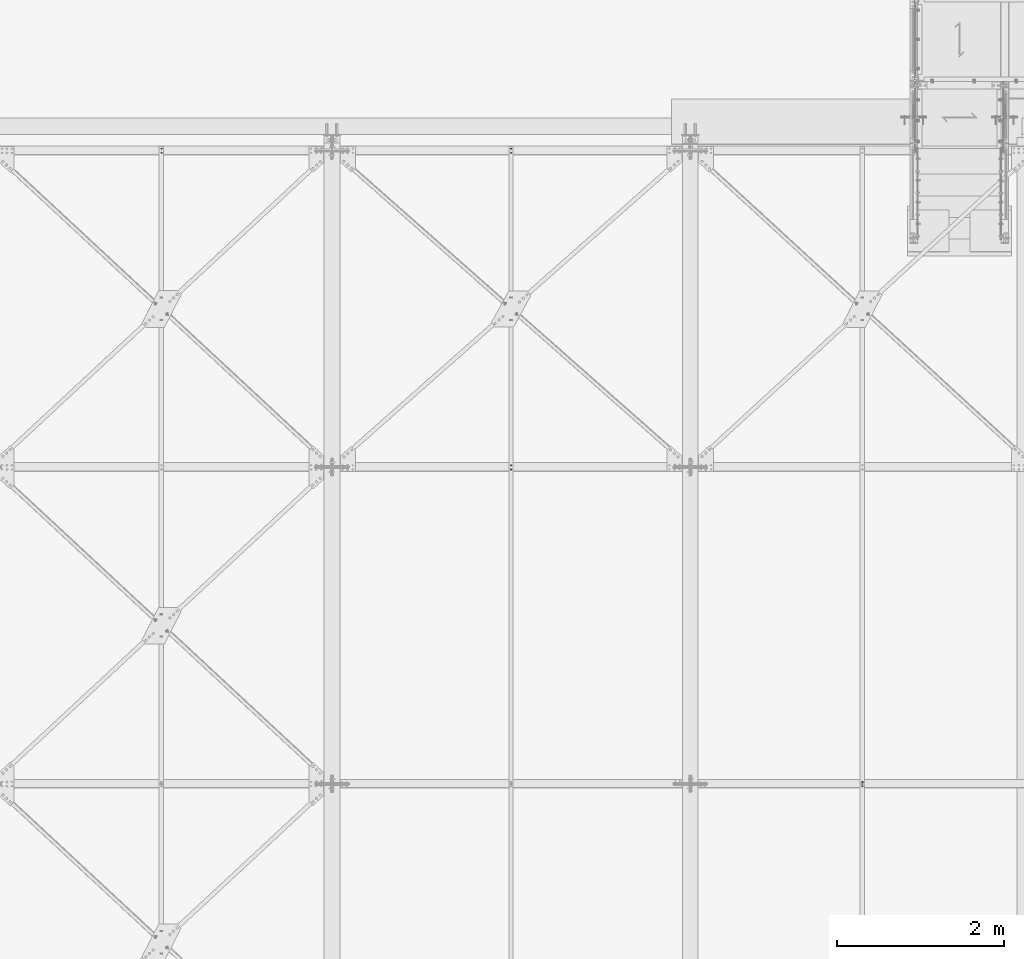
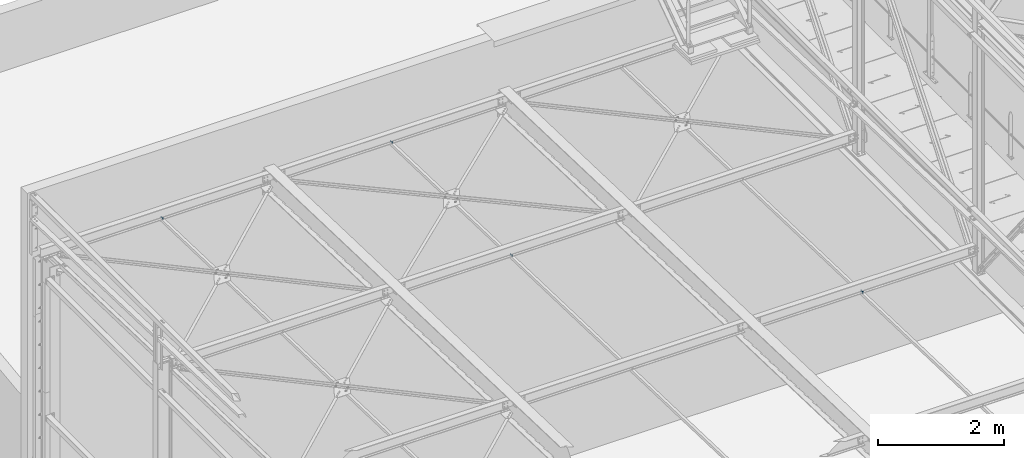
# One storey, part 243 of 362: 5 mechanical fasteners.
"""IFC2X3 building model written with IfcOpenShell, lengths in millimetres."""

from ifc_helpers import new_model, si_unit, frame, origin_with_axes, origin_2d_with_axis, place, context, subcontext, project, spatial, polyline, circle, outline, extrude, source, transform, mapped, material, type_object, element, save


model = new_model("IFC2X3")

# Units and contexts
model_context = context("Model", 3, precision=1e-05, world=origin_with_axes())
body_context = subcontext(model_context, "Body", "Model", "MODEL_VIEW")
ifc_project = project(units=[si_unit("LENGTHUNIT", "METRE", prefix="MILLI"), si_unit("AREAUNIT", "SQUARE_METRE"), si_unit("VOLUMEUNIT", "CUBIC_METRE"), si_unit("MASSUNIT", "GRAM", prefix="KILO"), si_unit("TIMEUNIT", "SECOND"), si_unit("PLANEANGLEUNIT", "RADIAN"), si_unit("SOLIDANGLEUNIT", "STERADIAN"), si_unit("THERMODYNAMICTEMPERATUREUNIT", "DEGREE_CELSIUS"), si_unit("LUMINOUSINTENSITYUNIT", "LUMEN")], contexts=[model_context])

# Site, building, storey
site_placement = place(None, origin_with_axes())
site = spatial("IfcSite", under=ifc_project, at=site_placement, Name="Undefined", CompositionType="ELEMENT")
building_placement = place(site_placement, origin_with_axes())
building = spatial("IfcBuilding", under=site, at=building_placement, Name="Undefined", CompositionType="ELEMENT")
storey_placement = place(building_placement, origin_with_axes())
storey = spatial("IfcBuildingStorey", under=building, at=storey_placement, Name="Undefined", CompositionType="ELEMENT", Elevation=0.0)

# Mechanical fasteners
ifc_material = material(Name="8.8-SB-ZINGUE")
mechanical_fastener_type = type_object("IfcMechanicalFastenerType", Name="Bolt assembly")
shared_shape_1 = source(origin_with_axes(), body_context, "Body", "SweptSolid", [
    extrude(circle(Radius=7.0, at=origin_2d_with_axis()), frame((0.0, -8.40001950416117, 0.0), z_axis=(0.0, 1.0, 0.0), x_axis=(1.0, 0.0, 0.0)), (0.0, 0.0, 1.0), 8.5),
    extrude(circle(Radius=7.0, at=origin_2d_with_axis()), frame((0.0, -0.100011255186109, 0.0), z_axis=(0.0, 1.0, 0.0), x_axis=(1.0, 0.0, 0.0)), (0.0, 0.0, 1.0), 5.1),
    extrude(outline(polyline([(10.39230484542, 0.0), (5.19615242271, 9.00000000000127), (-5.19615242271, 9.00000000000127), (-10.39230484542, 0.0), (-5.19615242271, -9.00000000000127), (5.19615242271, -9.00000000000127), (10.39230484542, 0.0)])), frame((0.0, -16.4200195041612, 0.0), z_axis=(0.0, 1.0, 0.0), x_axis=(1.0, 0.0, 0.0)), (0.0, 0.0, 1.0), 7.92),
    extrude(circle(Radius=6.0, at=origin_2d_with_axis()), frame((0.0, -8.5, 0.0), z_axis=(0.0, 1.0, 0.0), x_axis=(1.0, 0.0, 0.0)), (0.0, 0.0, 1.0), 30.0),
    extrude(outline(polyline([(11.5008173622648, 0.0), (5.7504086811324, 9.96000000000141), (-5.7504086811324, 9.96000000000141), (-11.5008173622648, 0.0), (-5.7504086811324, -9.96000000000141), (5.7504086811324, -9.96000000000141), (11.5008173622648, 0.0)])), frame((0.0, 5.0, 0.0), z_axis=(0.0, 1.0, 0.0), x_axis=(1.0, 0.0, 0.0)), (0.0, 0.0, 1.0), 7.92),
])
for number, where, z_axis, x_axis, name in (
    (1, (6330.00001266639, 15196.8588781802, 7372.32065100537), (0.0, -0.999506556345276, 0.031410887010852), (-1.0, 0.0, 0.0), "Bolt assembly"),
    (2, (2135.00001266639, 15196.8588781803, 7372.32065100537), (0.0, -0.999506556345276, 0.031410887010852), (-1.0, 0.0, 0.0), "Bolt assembly"),
):
    element("IfcMechanicalFastener", number, at=place(storey_placement, frame(where, z_axis=z_axis, x_axis=x_axis)), inside=storey, type_object=mechanical_fastener_type, material=ifc_material, Name=name, NominalDiameter=12.0, NominalLength=30.0, context=body_context, shape_type="MappedRepresentation", body=[
        mapped(shared_shape_1, transform((0.0, 0.0, -25.0))),
        mapped(shared_shape_1, transform((0.0, 0.0, 25.0))),
    ])
shared_shape_2 = source(origin_with_axes(), body_context, "Body", "SweptSolid", [
    extrude(circle(Radius=7.0, at=origin_2d_with_axis()), frame((0.0, -8.39654616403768, 0.0), z_axis=(0.0, 1.0, 0.0), x_axis=(1.0, 0.0, 0.0)), (0.0, 0.0, 1.0), 8.5),
    extrude(circle(Radius=7.0, at=origin_2d_with_axis()), frame((0.0, -0.100011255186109, 0.0), z_axis=(0.0, 1.0, 0.0), x_axis=(1.0, 0.0, 0.0)), (0.0, 0.0, 1.0), 5.1),
    extrude(outline(polyline([(10.39230484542, 0.0), (5.19615242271, 9.00000000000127), (-5.19615242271, 9.00000000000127), (-10.39230484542, 0.0), (-5.19615242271, -9.00000000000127), (5.19615242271, -9.00000000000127), (10.39230484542, 0.0)])), frame((0.0, -16.4165461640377, 0.0), z_axis=(0.0, 1.0, 0.0), x_axis=(1.0, 0.0, 0.0)), (0.0, 0.0, 1.0), 7.92),
    extrude(circle(Radius=6.0, at=origin_2d_with_axis()), frame((0.0, -8.49654616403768, 0.0), z_axis=(0.0, 1.0, 0.0), x_axis=(1.0, 0.0, 0.0)), (0.0, 0.0, 1.0), 30.0),
    extrude(outline(polyline([(11.5008173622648, 0.0), (5.7504086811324, 9.96000000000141), (-5.7504086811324, 9.96000000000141), (-11.5008173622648, 0.0), (-5.7504086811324, -9.96000000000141), (5.7504086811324, -9.96000000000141), (11.5008173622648, 0.0)])), frame((0.0, 5.0, 0.0), z_axis=(0.0, 1.0, 0.0), x_axis=(1.0, 0.0, 0.0)), (0.0, 0.0, 1.0), 7.92),
])
for number, where, z_axis, x_axis, name in (
    (3, (10546.7500126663, 7621.85063592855, 7610.37835678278), (0.0, -0.999506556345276, 0.031410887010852), (-1.0, 0.0, 0.0), "Bolt assembly"),
    (4, (10546.7500126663, 7571.87132293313, 7611.94904294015), (0.0, -0.999506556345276, 0.031410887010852), (-1.0, 0.0, 0.0), "Bolt assembly"),
):
    element("IfcMechanicalFastener", number, at=place(storey_placement, frame(where, z_axis=z_axis, x_axis=x_axis)), inside=storey, type_object=mechanical_fastener_type, material=ifc_material, Name=name, NominalDiameter=12.0, NominalLength=30.0, context=body_context, shape_type="MappedRepresentation", body=[
        mapped(shared_shape_2, transform((0.0, 0.0, 0.0))),
    ])
mechanical_fastener_placement = place(storey_placement, frame((6330.00001266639, 11396.8595005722, 7491.7421888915), z_axis=(0.0, -0.999506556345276, 0.031410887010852), x_axis=(-1.0, 0.0, 0.0)))
element("IfcMechanicalFastener", 5, at=mechanical_fastener_placement, inside=storey, type_object=mechanical_fastener_type, material=ifc_material, Name="Bolt assembly", NominalDiameter=12.0, NominalLength=30.0, context=body_context, shape_type="MappedRepresentation", body=[
    mapped(shared_shape_2, transform((0.0, 0.0, -25.0))),
    mapped(shared_shape_2, transform((0.0, 0.0, 25.0))),
])

save(model, "model.ifc")
